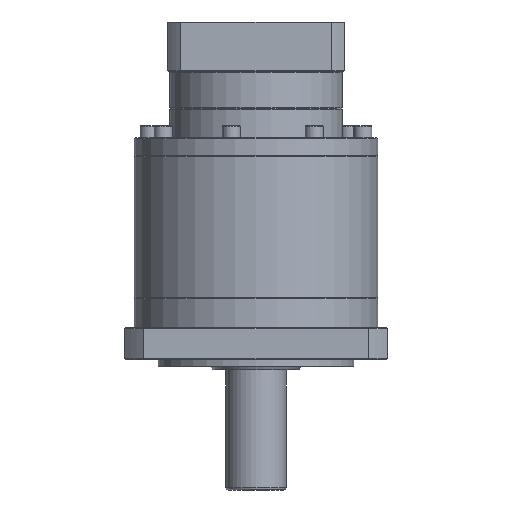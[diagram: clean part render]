
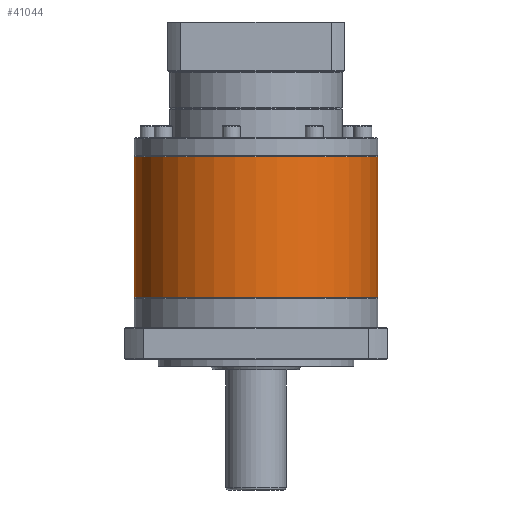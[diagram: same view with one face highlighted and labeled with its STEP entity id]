
A CAD part, front view. The second image highlights one B-rep face of the part: STEP entity #41044.
In plain terms, the highlighted cylindrical face has radius 81 mm (diameter 162 mm), a partial arc.
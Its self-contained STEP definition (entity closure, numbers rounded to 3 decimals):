
#3323 = DIRECTION ( 'NONE',  ( -1., 0., 0. ) ) ;
#5084 = ORIENTED_EDGE ( 'NONE', *, *, #11008, .T. ) ;
#5312 = DIRECTION ( 'NONE',  ( 0., 0., -1. ) ) ;
#6435 = ORIENTED_EDGE ( 'NONE', *, *, #37792, .F. ) ;
#7594 = ORIENTED_EDGE ( 'NONE', *, *, #24477, .T. ) ;
#8003 = DIRECTION ( 'NONE',  ( -1., 0., 0. ) ) ;
#11008 = EDGE_CURVE ( 'NONE', #32468, #70951, #91172, .T. ) ;
#14137 = LINE ( 'NONE', #42572, #28349 ) ;
#15316 = ORIENTED_EDGE ( 'NONE', *, *, #57153, .T. ) ;
#17679 = VECTOR ( 'NONE', #19729, 1000. ) ;
#19729 = DIRECTION ( 'NONE',  ( 0., 0., -1. ) ) ;
#24477 = EDGE_CURVE ( 'NONE', #36001, #106753, #39908, .T. ) ;
#28286 = CARTESIAN_POINT ( 'NONE',  ( -49.013, -121.1, -93.269 ) ) ;
#28349 = VECTOR ( 'NONE', #51279, 1000. ) ;
#28708 = CARTESIAN_POINT ( 'NONE',  ( 31.987, -121.1, 0.731 ) ) ;
#29215 = EDGE_LOOP ( 'NONE', ( #6435, #7594, #15316, #5084 ) ) ;
#32468 = VERTEX_POINT ( 'NONE', #50158 ) ;
#33307 = CARTESIAN_POINT ( 'NONE',  ( -130.013, -121.1, 0.231 ) ) ;
#35679 = CARTESIAN_POINT ( 'NONE',  ( 31.987, -121.1, -93.269 ) ) ;
#36001 = VERTEX_POINT ( 'NONE', #61320 ) ;
#37011 = CYLINDRICAL_SURFACE ( 'NONE', #56997, 81. ) ;
#37792 = EDGE_CURVE ( 'NONE', #36001, #70951, #60381, .T. ) ;
#39908 = CIRCLE ( 'NONE', #59730, 81. ) ;
#41044 = ADVANCED_FACE ( 'NONE', ( #63042 ), #37011, .T. ) ;
#42572 = CARTESIAN_POINT ( 'NONE',  ( -130.013, -121.1, 0.731 ) ) ;
#43703 = DIRECTION ( 'NONE',  ( -1., 0., 0. ) ) ;
#44964 = DIRECTION ( 'NONE',  ( 0., 0., 1. ) ) ;
#50158 = CARTESIAN_POINT ( 'NONE',  ( -130.013, -121.1, -93.269 ) ) ;
#51279 = DIRECTION ( 'NONE',  ( 0., 0., -1. ) ) ;
#56997 = AXIS2_PLACEMENT_3D ( 'NONE', #91738, #57651, #8003 ) ;
#57153 = EDGE_CURVE ( 'NONE', #106753, #32468, #14137, .T. ) ;
#57651 = DIRECTION ( 'NONE',  ( 0., 0., -1. ) ) ;
#59730 = AXIS2_PLACEMENT_3D ( 'NONE', #71287, #5312, #43703 ) ;
#60381 = LINE ( 'NONE', #28708, #17679 ) ;
#61320 = CARTESIAN_POINT ( 'NONE',  ( 31.987, -121.1, 0.231 ) ) ;
#63042 = FACE_OUTER_BOUND ( 'NONE', #29215, .T. ) ;
#63890 = AXIS2_PLACEMENT_3D ( 'NONE', #28286, #44964, #3323 ) ;
#70951 = VERTEX_POINT ( 'NONE', #35679 ) ;
#71287 = CARTESIAN_POINT ( 'NONE',  ( -49.013, -121.1, 0.231 ) ) ;
#91172 = CIRCLE ( 'NONE', #63890, 81. ) ;
#91738 = CARTESIAN_POINT ( 'NONE',  ( -49.013, -121.1, 0.731 ) ) ;
#106753 = VERTEX_POINT ( 'NONE', #33307 ) ;
